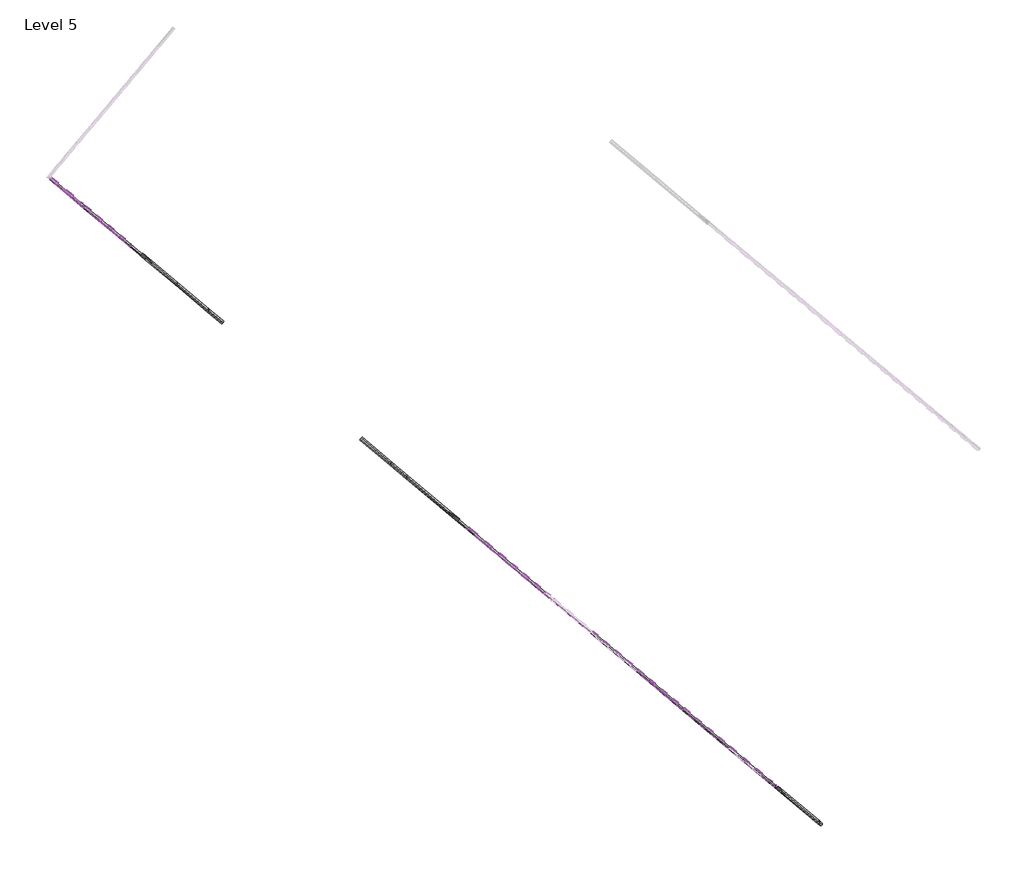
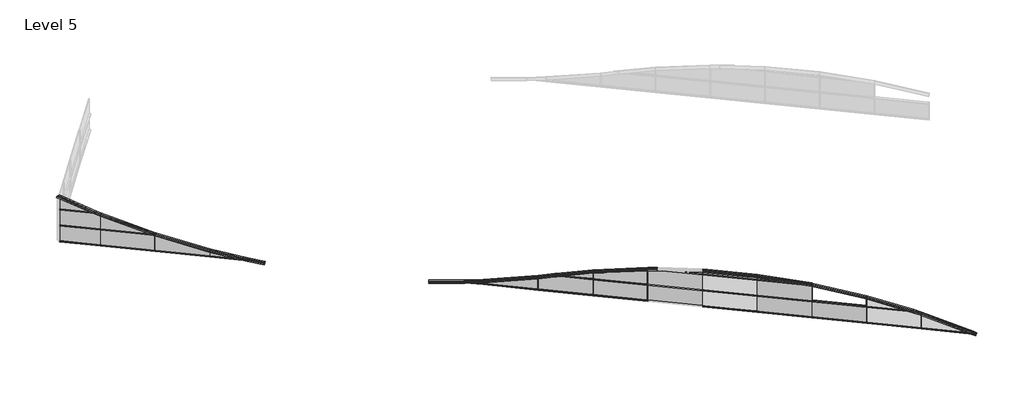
# One storey, part 1 of 3: 63 members, 22 plates.
"""IFC4 building model written with IfcOpenShell, lengths in millimetres."""

from ifc_helpers import new_model, si_unit, origin, place, context, project, spatial, transform, mapped, element, save
from components import member_e6b937b8, member_70bd908b, member_b3abe098, member_413a7bc5, member_acc734a8, member_3b901554, member_13104b59, member_2e13c91d, member_fd70117c, member_30c93c50, member_eaba9652, member_8e78e238, member_0554ee45, member_a8cc26e5, member_8357d0f7, member_06734e61, member_2dee25fe, member_2a6e87f4, member_080aa8fc, member_d5314287, member_feeeeace, member_a61118c8, member_515de703, member_f0ee25d4, member_fd3aaf6b, member_20d2be33, member_d02cf1ea, member_5b2668ac, member_4fadea7a, member_d7c8f077, member_25078dfa, member_bca03e0c, member_9db91060, member_15d39469, member_80d10c17, member_a3f5faf8, member_a7f1325a, member_37f80dbb, member_de666e84, member_804b152c, system_panel_glazed_a2c5a472, system_panel_glazed_ccf48815, system_panel_glazed_b129e1d1, system_panel_glazed_e8c26a90, system_panel_glazed_99161af7, system_panel_glazed_51180f41, system_panel_glazed_4c804277, system_panel_glazed_3941521a, system_panel_glazed_f960aef1, system_panel_glazed_87bd28ea, system_panel_glazed_7567f430, system_panel_glazed_97bb1392, system_panel_glazed_e87ea906, system_panel_glazed_e5f27b07, system_panel_glazed_77711ee0, system_panel_glazed_080434d1, system_panel_glazed_b2ff54e6

model = new_model("IFC4")

# Units and contexts
model_context = context("Model", 3, world=origin())
ifc_project = project(units=[si_unit("LENGTHUNIT", "METRE", prefix="MILLI")], contexts=[model_context])

# Site, building, storey
site = spatial("IfcSite", under=ifc_project)
building = spatial("IfcBuilding", under=site)
storey = spatial("IfcBuildingStorey", under=building, Name="Level 5", Elevation=12192.0)

# Members
placement = place(None, origin())
member_shape = member_e6b937b8(model_context)
element("IfcMember", 1, ObjectType="Rectangular Mullion : 1.5\" x 2.5\" rectangular", at=placement, inside=storey, context=model_context, shape_type="MappedRepresentation", body=[
    mapped(member_shape, transform((-24606.4909442, 3467.1035284, 13601.1444177), x_axis=(-0.76604444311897, 0.6427876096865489, 0.0), y_axis=(-0.6427876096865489, -0.76604444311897, 0.0), z_axis=(0.0, 0.0, 1.0))),
])
element("IfcMember", 2, ObjectType="Rectangular Mullion : 1.5\" x 2.5\" rectangular", at=placement, inside=storey, context=model_context, shape_type="MappedRepresentation", body=[
    mapped(member_shape, transform((-26941.3944069, 5426.3201627, 13601.1444177), x_axis=(-0.76604444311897, 0.6427876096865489, 0.0), y_axis=(-0.6427876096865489, -0.76604444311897, 0.0), z_axis=(0.0, 0.0, 1.0))),
])
element("IfcMember", 3, ObjectType="Rectangular Mullion : 1.5\" x 2.5\" rectangular", at=placement, inside=storey, context=model_context, shape_type="MappedRepresentation", body=[
    mapped(member_shape, transform((-29276.2978695, 7385.536797, 13601.1444177), x_axis=(-0.76604444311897, 0.6427876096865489, 0.0), y_axis=(-0.6427876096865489, -0.76604444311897, 0.0), z_axis=(0.0, 0.0, 1.0))),
])
element("IfcMember", 4, ObjectType="Rectangular Mullion : 1.5\" x 2.5\" rectangular", at=placement, inside=storey, context=model_context, shape_type="MappedRepresentation", body=[
    mapped(member_shape, transform((-33946.1047947, 11303.9700657, 13601.1444177), x_axis=(-0.76604444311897, 0.6427876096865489, 0.0), y_axis=(-0.6427876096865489, -0.76604444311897, 0.0), z_axis=(0.0, 0.0, 1.0))),
])
element("IfcMember", 5, ObjectType="Rectangular Mullion : 1.5\" x 2.5\" rectangular", at=placement, inside=storey, context=model_context, shape_type="MappedRepresentation", body=[
    mapped(member_shape, transform((-36281.0082574, 13263.1867, 13601.1444177), x_axis=(-0.76604444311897, 0.6427876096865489, 0.0), y_axis=(-0.6427876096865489, -0.76604444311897, 0.0), z_axis=(0.0, 0.0, 1.0))),
])
element("IfcMember", 6, ObjectType="Rectangular Mullion : 1.5\" x 2.5\" rectangular", at=placement, inside=storey, context=model_context, shape_type="MappedRepresentation", body=[
    mapped(member_shape, transform((-54960.2359584, 28936.9197746, 13601.1444177), x_axis=(-0.76604444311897, 0.6427876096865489, 0.0), y_axis=(-0.6427876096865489, -0.76604444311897, 0.0), z_axis=(0.0, 0.0, 1.0))),
])
element("IfcMember", 7, ObjectType="Rectangular Mullion : 1.5\" x 2.5\" rectangular", at=placement, inside=storey, context=model_context, shape_type="MappedRepresentation", body=[
    mapped(member_shape, transform((-57295.139421, 30896.1364089, 13601.1444177), x_axis=(-0.76604444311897, 0.6427876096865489, 0.0), y_axis=(-0.6427876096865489, -0.76604444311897, 0.0), z_axis=(0.0, 0.0, 1.0))),
])
element("IfcMember", 8, ObjectType="Rectangular Mullion : 1.5\" x 2.5\" rectangular", at=placement, inside=storey, context=model_context, shape_type="MappedRepresentation", body=[
    mapped(member_shape, transform((-26941.3944069, 5426.3201627, 14667.9444177), x_axis=(-0.76604444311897, 0.6427876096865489, 0.0), y_axis=(-0.6427876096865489, -0.76604444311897, 0.0), z_axis=(0.0, 0.0, 1.0))),
])
element("IfcMember", 9, ObjectType="Rectangular Mullion : 1.5\" x 2.5\" rectangular", at=placement, inside=storey, context=model_context, shape_type="MappedRepresentation", body=[
    mapped(member_shape, transform((-29276.2978695, 7385.536797, 14667.9444177), x_axis=(-0.76604444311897, 0.6427876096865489, 0.0), y_axis=(-0.6427876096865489, -0.76604444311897, 0.0), z_axis=(0.0, 0.0, 1.0))),
])
member_2_shape = member_70bd908b(model_context)
element("IfcMember", 10, ObjectType="Rectangular Mullion : 1.5\" x 2.5\" rectangular", at=placement, inside=storey, context=model_context, shape_type="MappedRepresentation", body=[
    mapped(member_2_shape, transform((-36281.0082574, 13263.1867, 14119.2958825), x_axis=(-0.76604444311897, 0.6427876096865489, 0.0), y_axis=(-0.6427876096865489, -0.76604444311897, 0.0), z_axis=(0.0, 0.0, 1.0))),
])
member_3_shape = member_b3abe098(model_context)
element("IfcMember", 11, ObjectType="Rectangular Mullion : 1.5\" x 2.5\" rectangular", at=placement, inside=storey, context=model_context, shape_type="MappedRepresentation", body=[
    mapped(member_3_shape, transform((-38615.91172, 15222.4033343, 13368.1818647), x_axis=(-0.76604444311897, 0.6427876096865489, 0.0), y_axis=(-0.6427876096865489, -0.76604444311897, 0.0), z_axis=(0.0, 0.0, 1.0))),
])
member_4_shape = member_413a7bc5(model_context)
element("IfcMember", 12, ObjectType="Rectangular Mullion : 1.5\" x 2.5\" rectangular", at=placement, inside=storey, context=model_context, shape_type="MappedRepresentation", body=[
    mapped(member_4_shape, transform((-40950.8151826, 17181.6199687, 12733.2673245), x_axis=(-0.76604444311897, 0.6427876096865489, 0.0), y_axis=(-0.6427876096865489, -0.76604444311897, 0.0), z_axis=(0.0, 0.0, 1.0))),
])
member_5_shape = member_acc734a8(model_context)
element("IfcMember", 13, ObjectType="Rectangular Mullion : 1.5\" x 2.5\" rectangular", at=placement, inside=storey, context=model_context, shape_type="MappedRepresentation", body=[
    mapped(member_5_shape, transform((-57295.139421, 30896.1364089, 14599.6362955), x_axis=(-0.76604444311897, 0.6427876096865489, 0.0), y_axis=(-0.6427876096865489, -0.76604444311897, 0.0), z_axis=(0.0, 0.0, 1.0))),
])
member_6_shape = member_3b901554(model_context)
element("IfcMember", 14, ObjectType="Rectangular Mullion : 1.5\" x 2.5\" rectangular", at=placement, inside=storey, context=model_context, shape_type="MappedRepresentation", body=[
    mapped(member_6_shape, transform((-29276.2978695, 7385.536797, 14922.6780402), x_axis=(-0.76604444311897, 0.6427876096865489, 0.0), y_axis=(-0.6427876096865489, -0.76604444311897, 0.0), z_axis=(0.0, 0.0, 1.0))),
])
member_7_shape = member_13104b59(model_context)
element("IfcMember", 15, ObjectType="Rectangular Mullion : 1.5\" x 2.5\" rectangular", at=placement, inside=storey, context=model_context, shape_type="MappedRepresentation", body=[
    mapped(member_7_shape, transform((-22271.5874816, 1507.8868941, 13504.6166424), x_axis=(-0.76604444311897, 0.6427876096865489, 0.0), y_axis=(-0.6427876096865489, -0.76604444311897, 0.0), z_axis=(0.0, 0.0, 1.0))),
])
member_8_shape = member_2e13c91d(model_context)
element("IfcMember", 16, ObjectType="Rectangular Mullion : 1.5\" x 2.5\" rectangular", at=placement, inside=storey, context=model_context, shape_type="MappedRepresentation", body=[
    mapped(member_8_shape, transform((-24606.4909442, 3467.1035284, 14231.5556655), x_axis=(-0.76604444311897, 0.6427876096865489, 0.0), y_axis=(-0.6427876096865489, -0.76604444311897, 0.0), z_axis=(0.0, 0.0, 1.0))),
])
member_9_shape = member_fd70117c(model_context)
element("IfcMember", 17, ObjectType="Rectangular Mullion : 1.5\" x 2.5\" rectangular", at=placement, inside=storey, context=model_context, shape_type="MappedRepresentation", body=[
    mapped(member_9_shape, transform((-33946.1047947, 11303.9700657, 14634.5988593), x_axis=(-0.76604444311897, 0.6427876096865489, 0.0), y_axis=(-0.6427876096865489, -0.76604444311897, 0.0), z_axis=(0.0, 0.0, 1.0))),
])
member_10_shape = member_30c93c50(model_context)
element("IfcMember", 18, ObjectType="Rectangular Mullion : 1.5\" x 2.5\" rectangular", at=placement, inside=storey, context=model_context, shape_type="MappedRepresentation", body=[
    mapped(member_10_shape, transform((-52625.3324958, 26977.7031403, 12923.5732571), x_axis=(-0.76604444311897, 0.6427876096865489, 0.0), y_axis=(-0.6427876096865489, -0.76604444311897, 0.0), z_axis=(0.0, 0.0, 1.0))),
])
member_11_shape = member_eaba9652(model_context)
element("IfcMember", 19, ObjectType="Rectangular Mullion : 2.5\" x 5\" rectangular", at=placement, inside=storey, context=model_context, shape_type="MappedRepresentation", body=[
    mapped(member_11_shape, transform((-22271.5874816, 1507.8868941, 12566.0944177), x_axis=(0.0, 0.0, 1.0), y_axis=(-0.6427876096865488, -0.7660444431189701, 0.0), z_axis=(0.7660444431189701, -0.6427876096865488, 0.0))),
])
element("IfcMember", 20, ObjectType="Rectangular Mullion : 2.5\" x 5\" rectangular", at=placement, inside=storey, context=model_context, shape_type="MappedRepresentation", body=[
    mapped(member_11_shape, transform((-24606.4909442, 3467.1035284, 12566.0944177), x_axis=(0.0, 0.0, 1.0), y_axis=(-0.6427876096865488, -0.7660444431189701, 0.0), z_axis=(0.7660444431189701, -0.6427876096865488, 0.0))),
])
element("IfcMember", 21, ObjectType="Rectangular Mullion : 2.5\" x 5\" rectangular", at=placement, inside=storey, context=model_context, shape_type="MappedRepresentation", body=[
    mapped(member_11_shape, transform((-26941.3944069, 5426.3201627, 12566.0944177), x_axis=(0.0, 0.0, 1.0), y_axis=(-0.6427876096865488, -0.7660444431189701, 0.0), z_axis=(0.7660444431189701, -0.6427876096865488, 0.0))),
])
element("IfcMember", 22, ObjectType="Rectangular Mullion : 2.5\" x 5\" rectangular", at=placement, inside=storey, context=model_context, shape_type="MappedRepresentation", body=[
    mapped(member_11_shape, transform((-29276.2978695, 7385.536797, 12566.0944177), x_axis=(0.0, 0.0, 1.0), y_axis=(-0.6427876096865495, -0.7660444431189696, 0.0), z_axis=(0.7660444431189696, -0.6427876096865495, 0.0))),
])
element("IfcMember", 23, ObjectType="Rectangular Mullion : 2.5\" x 5\" rectangular", at=placement, inside=storey, context=model_context, shape_type="MappedRepresentation", body=[
    mapped(member_11_shape, transform((-33946.1047947, 11303.9700657, 12566.0944177), x_axis=(0.0, 0.0, 1.0), y_axis=(-0.642787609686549, -0.76604444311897, 0.0), z_axis=(0.7660444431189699, -0.6427876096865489, 0.0))),
])
element("IfcMember", 24, ObjectType="Rectangular Mullion : 2.5\" x 5\" rectangular", at=placement, inside=storey, context=model_context, shape_type="MappedRepresentation", body=[
    mapped(member_11_shape, transform((-36281.0082574, 13263.1867, 12566.0944177), x_axis=(0.0, 0.0, 1.0), y_axis=(-0.6427876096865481, -0.7660444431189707, 0.0), z_axis=(0.7660444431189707, -0.6427876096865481, 0.0))),
])
element("IfcMember", 25, ObjectType="Rectangular Mullion : 2.5\" x 5\" rectangular", at=placement, inside=storey, context=model_context, shape_type="MappedRepresentation", body=[
    mapped(member_11_shape, transform((-38615.91172, 15222.4033343, 12566.0944177), x_axis=(0.0, 0.0, 1.0), y_axis=(-0.6427876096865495, -0.7660444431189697, 0.0), z_axis=(0.7660444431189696, -0.6427876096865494, 0.0))),
])
element("IfcMember", 26, ObjectType="Rectangular Mullion : 2.5\" x 5\" rectangular", at=placement, inside=storey, context=model_context, shape_type="MappedRepresentation", body=[
    mapped(member_11_shape, transform((-52625.3324958, 26977.7031403, 12566.0944177), x_axis=(0.0, 0.0, 1.0), y_axis=(-0.6427876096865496, -0.7660444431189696, 0.0), z_axis=(0.7660444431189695, -0.6427876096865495, 0.0))),
])
element("IfcMember", 27, ObjectType="Rectangular Mullion : 2.5\" x 5\" rectangular", at=placement, inside=storey, context=model_context, shape_type="MappedRepresentation", body=[
    mapped(member_11_shape, transform((-54960.2359584, 28936.9197746, 12566.0944177), x_axis=(0.0, 0.0, 1.0), y_axis=(-0.6427876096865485, -0.7660444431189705, 0.0), z_axis=(0.7660444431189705, -0.6427876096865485, 0.0))),
])
element("IfcMember", 28, ObjectType="Rectangular Mullion : 2.5\" x 5\" rectangular", at=placement, inside=storey, context=model_context, shape_type="MappedRepresentation", body=[
    mapped(member_11_shape, transform((-24606.4909442, 3467.1035284, 13632.8944177), x_axis=(0.0, 0.0, 1.0), y_axis=(-0.6427876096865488, -0.7660444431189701, 0.0), z_axis=(0.7660444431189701, -0.6427876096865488, 0.0))),
])
element("IfcMember", 29, ObjectType="Rectangular Mullion : 2.5\" x 5\" rectangular", at=placement, inside=storey, context=model_context, shape_type="MappedRepresentation", body=[
    mapped(member_11_shape, transform((-26941.3944069, 5426.3201627, 13632.8944177), x_axis=(0.0, 0.0, 1.0), y_axis=(-0.6427876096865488, -0.7660444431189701, 0.0), z_axis=(0.7660444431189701, -0.6427876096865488, 0.0))),
])
element("IfcMember", 30, ObjectType="Rectangular Mullion : 2.5\" x 5\" rectangular", at=placement, inside=storey, context=model_context, shape_type="MappedRepresentation", body=[
    mapped(member_11_shape, transform((-29276.2978695, 7385.536797, 13632.8944177), x_axis=(0.0, 0.0, 1.0), y_axis=(-0.6427876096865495, -0.7660444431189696, 0.0), z_axis=(0.7660444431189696, -0.6427876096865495, 0.0))),
])
element("IfcMember", 31, ObjectType="Rectangular Mullion : 2.5\" x 5\" rectangular", at=placement, inside=storey, context=model_context, shape_type="MappedRepresentation", body=[
    mapped(member_11_shape, transform((-33946.1047947, 11303.9700657, 13632.8944177), x_axis=(0.0, 0.0, 1.0), y_axis=(-0.642787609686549, -0.76604444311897, 0.0), z_axis=(0.7660444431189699, -0.6427876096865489, 0.0))),
])
element("IfcMember", 32, ObjectType="Rectangular Mullion : 2.5\" x 5\" rectangular", at=placement, inside=storey, context=model_context, shape_type="MappedRepresentation", body=[
    mapped(member_11_shape, transform((-29276.2978695, 7385.536797, 14699.6944177), x_axis=(0.0, 0.0, 1.0), y_axis=(-0.6427876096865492, -0.7660444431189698, 0.0), z_axis=(0.7660444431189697, -0.6427876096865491, 0.0))),
])
member_12_shape = member_8e78e238(model_context)
element("IfcMember", 33, ObjectType="Rectangular Mullion : 2.5\" x 5\" rectangular", at=placement, inside=storey, context=model_context, shape_type="MappedRepresentation", body=[
    mapped(member_12_shape, transform((-57295.139421, 30896.1364089, 12566.0944177), x_axis=(0.0, 0.0, 1.0), y_axis=(-0.6427876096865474, -0.7660444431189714, 0.0), z_axis=(0.7660444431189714, -0.6427876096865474, 0.0))),
])
element("IfcMember", 34, ObjectType="Rectangular Mullion : 2.5\" x 5\" rectangular", at=placement, inside=storey, context=model_context, shape_type="MappedRepresentation", body=[
    mapped(member_12_shape, transform((-57295.139421, 30896.1364089, 13632.8944177), x_axis=(0.0, 0.0, 1.0), y_axis=(-0.6427876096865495, -0.7660444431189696, 0.0), z_axis=(0.7660444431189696, -0.6427876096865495, 0.0))),
])
member_13_shape = member_0554ee45(model_context)
element("IfcMember", 35, ObjectType="Rectangular Mullion : 2.5\" x 5\" rectangular", at=placement, inside=storey, context=model_context, shape_type="MappedRepresentation", body=[
    mapped(member_13_shape, transform((-20063.1247747, -345.2333487, 12566.0944177), x_axis=(0.0, 0.0, 1.0), y_axis=(-0.6427876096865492, -0.7660444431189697, 0.0), z_axis=(0.7660444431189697, -0.6427876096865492, 0.0))),
])
member_14_shape = member_a8cc26e5(model_context)
element("IfcMember", 36, ObjectType="Rectangular Mullion : 2.5\" x 5\" rectangular", at=placement, inside=storey, context=model_context, shape_type="MappedRepresentation", body=[
    mapped(member_14_shape, transform((-40950.8151826, 17181.6199687, 12566.0944177), x_axis=(0.0, 0.0, 1.0), y_axis=(-0.6427876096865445, -0.7660444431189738, 0.0), z_axis=(0.7660444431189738, -0.6427876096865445, 0.0))),
])
member_15_shape = member_8357d0f7(model_context)
element("IfcMember", 37, ObjectType="Rectangular Mullion : 2.5\" x 5\" rectangular", at=placement, inside=storey, context=model_context, shape_type="MappedRepresentation", body=[
    mapped(member_15_shape, transform((-51013.959555, 25625.6007, 12566.0944177), x_axis=(0.0, 0.0, 1.0), y_axis=(-0.6427876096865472, -0.7660444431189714, 0.0), z_axis=(0.7660444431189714, -0.6427876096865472, 0.0))),
])
member_16_shape = member_06734e61(model_context)
element("IfcMember", 38, ObjectType="Rectangular Mullion : 2.5\" x 5\" rectangular", at=placement, inside=storey, context=model_context, shape_type="MappedRepresentation", body=[
    mapped(member_16_shape, transform((-22628.3504996, 1807.2466109, 13632.8944177), x_axis=(0.0, 0.0, 1.0), y_axis=(-0.6427876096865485, -0.7660444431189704, 0.0), z_axis=(0.7660444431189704, -0.6427876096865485, 0.0))),
])
member_17_shape = member_2dee25fe(model_context)
element("IfcMember", 39, ObjectType="Rectangular Mullion : 2.5\" x 5\" rectangular", at=placement, inside=storey, context=model_context, shape_type="MappedRepresentation", body=[
    mapped(member_17_shape, transform((-36281.0082574, 13263.1867, 13632.8944177), x_axis=(0.0, 0.0, 1.0), y_axis=(-0.6427876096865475, -0.7660444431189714, 0.0), z_axis=(0.7660444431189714, -0.6427876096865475, 0.0))),
])
member_18_shape = member_2a6e87f4(model_context)
element("IfcMember", 40, ObjectType="Rectangular Mullion : 2.5\" x 5\" rectangular", at=placement, inside=storey, context=model_context, shape_type="MappedRepresentation", body=[
    mapped(member_18_shape, transform((-57507.3829394, 31074.229867, 14699.6944177), x_axis=(0.0, 0.0, 1.0), y_axis=(-0.642787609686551, -0.7660444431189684, 0.0), z_axis=(0.7660444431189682, -0.6427876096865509, 0.0))),
])
member_19_shape = member_080aa8fc(model_context)
element("IfcMember", 41, ObjectType="Rectangular Mullion : 2.5\" x 5\" rectangular", at=placement, inside=storey, context=model_context, shape_type="MappedRepresentation", body=[
    mapped(member_19_shape, transform((-54945.6428117, 28924.6746707, 13632.8944177), x_axis=(0.0, 0.0, 1.0), y_axis=(-0.6427876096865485, -0.7660444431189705, 0.0), z_axis=(0.7660444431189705, -0.6427876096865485, 0.0))),
])
element("IfcMember", 42, ObjectType="Rectangular Mullion : 2.5\" x 5\" rectangular", at=placement, inside=storey, context=model_context, shape_type="MappedRepresentation", body=[
    mapped(member_19_shape, transform((-26926.8012602, 5414.0750588, 14699.6944177), x_axis=(0.0, 0.0, 1.0), y_axis=(-0.6427876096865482, -0.7660444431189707, 0.0), z_axis=(0.7660444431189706, -0.6427876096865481, 0.0))),
])
member_20_shape = member_d5314287(model_context)
element("IfcMember", 43, ObjectType="V Corner Mullion : 5\" V Corner", at=placement, inside=storey, context=model_context, shape_type="MappedRepresentation", body=[
    mapped(member_20_shape, transform((-29276.2978695, 7385.536797, 14922.6780402), x_axis=(-0.005533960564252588, 0.004643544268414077, 0.9999739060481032), y_axis=(-0.6427876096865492, -0.7660444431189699, 0.0), z_axis=(0.7660244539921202, -0.6427708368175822, 0.007224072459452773))),
])
member_21_shape = member_feeeeace(model_context)
element("IfcMember", 44, ObjectType="V Corner Mullion : 5\" V Corner", at=placement, inside=storey, context=model_context, shape_type="MappedRepresentation", body=[
    mapped(member_21_shape, transform((-38615.91172, 15222.4033343, 13368.1818647), x_axis=(-0.1562178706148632, 0.1310823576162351, 0.9789859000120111), y_axis=(-0.6427876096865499, -0.7660444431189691, 0.0), z_axis=(0.7499467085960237, -0.6292800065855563, 0.20392794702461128))),
])
member_22_shape = member_a61118c8(model_context)
element("IfcMember", 45, ObjectType="V Corner Mullion : 5\" V Corner", at=placement, inside=storey, context=model_context, shape_type="MappedRepresentation", body=[
    mapped(member_22_shape, transform((-19936.684019, -451.3297403, 12504.5952808), x_axis=(0.26746140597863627, -0.22442676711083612, 0.937068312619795), y_axis=(-0.6427876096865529, -0.7660444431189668, 0.0), z_axis=(0.7178359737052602, -0.6023359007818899, -0.3491460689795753))),
])
member_23_shape = member_515de703(model_context)
element("IfcMember", 46, ObjectType="V Corner Mullion : 5\" V Corner", at=placement, inside=storey, context=model_context, shape_type="MappedRepresentation", body=[
    mapped(member_23_shape, transform((-22271.5874816, 1507.8868941, 13504.6166424), x_axis=(0.20342311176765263, -0.17069225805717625, 0.9640970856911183), y_axis=(-0.6427876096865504, -0.7660444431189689, 0.0), z_axis=(0.7385412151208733, -0.6197096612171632, -0.2655500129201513))),
])
member_24_shape = member_f0ee25d4(model_context)
element("IfcMember", 47, ObjectType="V Corner Mullion : 5\" V Corner", at=placement, inside=storey, context=model_context, shape_type="MappedRepresentation", body=[
    mapped(member_24_shape, transform((-33946.1047947, 11303.9700657, 14634.5988593), x_axis=(-0.12769742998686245, 0.10715086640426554, 0.9860081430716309), y_axis=(-0.6427876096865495, -0.7660444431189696, 0.0), z_axis=(0.7553260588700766, -0.6337938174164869, 0.16669715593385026))),
])
member_25_shape = member_fd3aaf6b(model_context)
element("IfcMember", 48, ObjectType="V Corner Mullion : 5\" V Corner", at=placement, inside=storey, context=model_context, shape_type="MappedRepresentation", body=[
    mapped(member_25_shape, transform((-36281.0082574, 13263.1867, 14119.2958825), x_axis=(-0.178499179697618, 0.14977859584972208, 0.972473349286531), y_axis=(-0.6427876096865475, -0.7660444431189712, 0.0), z_axis=(0.7449578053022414, -0.6250938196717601, 0.23301413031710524))),
])
member_26_shape = member_20d2be33(model_context)
element("IfcMember", 49, ObjectType="V Corner Mullion : 5\" V Corner", at=placement, inside=storey, context=model_context, shape_type="MappedRepresentation", body=[
    mapped(member_26_shape, transform((-37903.7802026, 14624.8540408, 13609.0302353), x_axis=(-0.19212509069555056, 0.16121209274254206, 0.9680385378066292), y_axis=(-0.642787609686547, -0.7660444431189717, 0.0), z_axis=(0.741560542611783, -0.6222431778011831, 0.2508014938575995))),
])
member_27_shape = member_d02cf1ea(model_context)
element("IfcMember", 50, ObjectType="V Corner Mullion : 5\" V Corner", at=placement, inside=storey, context=model_context, shape_type="MappedRepresentation", body=[
    mapped(member_27_shape, transform((-40950.8151826, 17181.6199687, 12733.2673245), x_axis=(-0.1189053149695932, 0.09977340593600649, 0.9878799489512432), y_axis=(-0.6427876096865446, -0.7660444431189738, 0.0), z_axis=(0.7567599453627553, -0.634996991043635, 0.15521986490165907))),
])
member_28_shape = member_5b2668ac(model_context)
element("IfcMember", 51, ObjectType="V Corner Mullion : 5\" V Corner", at=placement, inside=storey, context=model_context, shape_type="MappedRepresentation", body=[
    mapped(member_28_shape, transform((-50290.4290331, 25018.486506, 12440.8181166), x_axis=(0.10072401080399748, -0.0845174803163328, 0.991318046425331), y_axis=(-0.6427876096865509, -0.7660444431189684, 0.0), z_axis=(0.7593936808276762, -0.6372069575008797, -0.13148585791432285))),
])
member_29_shape = member_4fadea7a(model_context)
element("IfcMember", 52, ObjectType="V Corner Mullion : 5\" V Corner", at=placement, inside=storey, context=model_context, shape_type="MappedRepresentation", body=[
    mapped(member_29_shape, transform((-57295.139421, 30896.1364089, 14599.6362955), x_axis=(0.26019919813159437, -0.21833305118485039, 0.9405461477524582), y_axis=(-0.6427876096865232, -0.7660444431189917, 0.0), z_axis=(0.7205001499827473, -0.6045714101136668, -0.33966592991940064))),
])
member_30_shape = member_d7c8f077(model_context)
element("IfcMember", 53, ObjectType="V Corner Mullion : 5\" V Corner", at=placement, inside=storey, context=model_context, shape_type="MappedRepresentation", body=[
    mapped(member_30_shape, transform((-20063.1247747, -345.2333487, 12566.0944177), x_axis=(0.23713143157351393, -0.19897689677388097, 0.9508821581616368), y_axis=(-0.642787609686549, -0.7660444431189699, 0.0), z_axis=(0.7284179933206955, -0.6112152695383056, -0.30955309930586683))),
])
member_31_shape = member_25078dfa(model_context)
element("IfcMember", 54, ObjectType="V Corner Mullion : 5\" V Corner", at=placement, inside=storey, context=model_context, shape_type="MappedRepresentation", body=[
    mapped(member_31_shape, transform((-41765.8510669, 17865.5162786, 12566.0944177), x_axis=(-0.09133438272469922, 0.07663864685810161, 0.9928668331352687), y_axis=(-0.6427876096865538, -0.7660444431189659, 0.0), z_axis=(0.760580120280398, -0.6382024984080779, 0.11922856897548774))),
])
member_32_shape = member_bca03e0c(model_context)
element("IfcMember", 55, ObjectType="V Corner Mullion : 5\" V Corner", at=placement, inside=storey, context=model_context, shape_type="MappedRepresentation", body=[
    mapped(member_32_shape, transform((-51013.959555, 25625.6007, 12566.0944177), x_axis=(0.1283451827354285, -0.10769439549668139, 0.9858648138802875), y_axis=(-0.6427876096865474, -0.7660444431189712, 0.0), z_axis=(0.7552162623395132, -0.6337016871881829, -0.16754273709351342))),
])
member_33_shape = member_9db91060(model_context)
element("IfcMember", 56, ObjectType="V Corner Mullion : 5\" V Corner", at=placement, inside=storey, context=model_context, shape_type="MappedRepresentation", body=[
    mapped(member_33_shape, transform((-22628.3504996, 1807.2466109, 13632.8944177), x_axis=(0.17300702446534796, -0.14517013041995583, 0.9741633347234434), y_axis=(-0.6427876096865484, -0.7660444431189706, 0.0), z_axis=(0.7462524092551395, -0.6261801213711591, -0.22584463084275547))),
])
member_34_shape = member_15d39469(model_context)
element("IfcMember", 57, ObjectType="V Corner Mullion : 5\" V Corner", at=placement, inside=storey, context=model_context, shape_type="MappedRepresentation", body=[
    mapped(member_34_shape, transform((-37836.0580185, 14568.0283811, 13632.8944177), x_axis=(-0.1996412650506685, 0.1675189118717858, 0.965443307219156), y_axis=(-0.6427876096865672, -0.7660444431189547, 0.0), z_axis=(0.7395724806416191, -0.6205749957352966, 0.26061316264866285))),
])
member_35_shape = member_80d10c17(model_context)
element("IfcMember", 58, ObjectType="V Corner Mullion : 5\" V Corner", at=placement, inside=storey, context=model_context, shape_type="MappedRepresentation", body=[
    mapped(member_35_shape, transform((-33532.4033204, 10956.8333112, 14699.6944177), x_axis=(-0.0916726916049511, 0.07692252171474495, 0.9928137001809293), y_axis=(-0.6427876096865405, -0.7660444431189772, 0.0), z_axis=(0.7605394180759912, -0.638168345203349, 0.1196701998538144))),
])
member_36_shape = member_a3f5faf8(model_context)
element("IfcMember", 59, ObjectType="V Corner Mullion : 5\" V Corner", at=placement, inside=storey, context=model_context, shape_type="MappedRepresentation", body=[
    mapped(member_36_shape, transform((-57507.3829394, 31074.229867, 14699.6944177), x_axis=(0.2816474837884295, -0.23633029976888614, 0.9299584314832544), y_axis=(-0.6427876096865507, -0.7660444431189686, 0.0), z_axis=(0.7123894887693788, -0.5977657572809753, -0.36766467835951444))),
])
member_37_shape = member_a7f1325a(model_context)
element("IfcMember", 60, ObjectType="V Corner Mullion : 5\" V Corner", at=placement, inside=storey, context=model_context, shape_type="MappedRepresentation", body=[
    mapped(member_37_shape, transform((-24606.4909442, 3467.1035284, 14231.5556655), x_axis=(0.11675087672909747, -0.09796561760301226, 0.9883177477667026), y_axis=(-0.6427876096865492, -0.7660444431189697, 0.0), z_axis=(0.757095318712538, -0.6352784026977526, -0.1524074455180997))),
])
member_38_shape = member_37f80dbb(model_context)
element("IfcMember", 61, ObjectType="V Corner Mullion : 5\" V Corner", at=placement, inside=storey, context=model_context, shape_type="MappedRepresentation", body=[
    mapped(member_38_shape, transform((-26941.3944069, 5426.3201627, 14701.0815128), x_axis=(0.055546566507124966, -0.046609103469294, 0.9973676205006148), y_axis=(-0.6427876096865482, -0.7660444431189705, 0.0), z_axis=(0.7640279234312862, -0.6410955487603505, -0.0725108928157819))),
])
member_39_shape = member_de666e84(model_context)
element("IfcMember", 62, ObjectType="V Corner Mullion : 5\" V Corner", at=placement, inside=storey, context=model_context, shape_type="MappedRepresentation", body=[
    mapped(member_39_shape, transform((-52625.3324958, 26977.7031403, 12923.5732571), x_axis=(0.17484551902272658, -0.14671281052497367, 0.9736038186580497), y_axis=(-0.6427876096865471, -0.7660444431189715, 0.0), z_axis=(0.7458237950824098, -0.6258204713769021, -0.22824461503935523))),
])
member_40_shape = member_804b152c(model_context)
element("IfcMember", 63, ObjectType="V Corner Mullion : 5\" V Corner", at=placement, inside=storey, context=model_context, shape_type="MappedRepresentation", body=[
    mapped(member_40_shape, transform((-54960.2359584, 28936.9197746, 13639.0030262), x_axis=(0.2302673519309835, -0.1932172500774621, 0.9537526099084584), y_axis=(-0.642787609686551, -0.7660444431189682, 0.0), z_axis=(0.7306168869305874, -0.6130603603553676, -0.3005926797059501))),
])

# Plates
system_panel_glazed_shape = system_panel_glazed_a2c5a472(model_context)
element("IfcPlate", 64, ObjectType="System Panel : Glazed", at=placement, inside=storey, context=model_context, shape_type="MappedRepresentation", body=[
    mapped(system_panel_glazed_shape, transform((-25773.9426755, 4446.7118456, 12597.8444177), x_axis=(-0.76604444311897, 0.6427876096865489, 0.0), y_axis=(-0.6427876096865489, -0.76604444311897, 0.0), z_axis=(0.0, 0.0, 1.0))),
])
element("IfcPlate", 65, ObjectType="System Panel : Glazed", at=placement, inside=storey, context=model_context, shape_type="MappedRepresentation", body=[
    mapped(system_panel_glazed_shape, transform((-28108.8461382, 6405.9284799, 12597.8444177), x_axis=(-0.76604444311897, 0.6427876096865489, 0.0), y_axis=(-0.6427876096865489, -0.76604444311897, 0.0), z_axis=(0.0, 0.0, 1.0))),
])
element("IfcPlate", 66, ObjectType="System Panel : Glazed", at=placement, inside=storey, context=model_context, shape_type="MappedRepresentation", body=[
    mapped(system_panel_glazed_shape, transform((-32778.6530634, 10324.3617485, 12597.8444177), x_axis=(-0.76604444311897, 0.6427876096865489, 0.0), y_axis=(-0.6427876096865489, -0.76604444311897, 0.0), z_axis=(0.0, 0.0, 1.0))),
])
element("IfcPlate", 67, ObjectType="System Panel : Glazed", at=placement, inside=storey, context=model_context, shape_type="MappedRepresentation", body=[
    mapped(system_panel_glazed_shape, transform((-35113.5565261, 12283.5783829, 12597.8444177), x_axis=(-0.76604444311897, 0.6427876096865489, 0.0), y_axis=(-0.6427876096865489, -0.76604444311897, 0.0), z_axis=(0.0, 0.0, 1.0))),
])
element("IfcPlate", 68, ObjectType="System Panel : Glazed", at=placement, inside=storey, context=model_context, shape_type="MappedRepresentation", body=[
    mapped(system_panel_glazed_shape, transform((-56127.6876897, 29916.5280918, 12597.8444177), x_axis=(-0.76604444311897, 0.6427876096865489, 0.0), y_axis=(-0.6427876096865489, -0.76604444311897, 0.0), z_axis=(0.0, 0.0, 1.0))),
])
element("IfcPlate", 69, ObjectType="System Panel : Glazed", at=placement, inside=storey, context=model_context, shape_type="MappedRepresentation", body=[
    mapped(system_panel_glazed_shape, transform((-28108.8461382, 6405.9284799, 13664.6444177), x_axis=(-0.76604444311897, 0.6427876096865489, 0.0), y_axis=(-0.6427876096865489, -0.76604444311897, 0.0), z_axis=(0.0, 0.0, 1.0))),
])
system_panel_glazed_2_shape = system_panel_glazed_ccf48815(model_context)
element("IfcPlate", 70, ObjectType="System Panel : Glazed", at=placement, inside=storey, context=model_context, shape_type="MappedRepresentation", body=[
    mapped(system_panel_glazed_2_shape, transform((-58169.5258086, 31629.8337042, 12597.8444177), x_axis=(-0.76604444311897, 0.6427876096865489, 0.0), y_axis=(-0.6427876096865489, -0.76604444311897, 0.0), z_axis=(0.0, 0.0, 1.0))),
])
system_panel_glazed_3_shape = system_panel_glazed_b129e1d1(model_context)
element("IfcPlate", 71, ObjectType="System Panel : Glazed", at=placement, inside=storey, context=model_context, shape_type="MappedRepresentation", body=[
    mapped(system_panel_glazed_3_shape, transform((-39783.3634513, 16202.0116515, 12597.8444177), x_axis=(-0.76604444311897, 0.6427876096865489, 0.0), y_axis=(-0.6427876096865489, -0.76604444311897, 0.0), z_axis=(0.0, 0.0, 1.0))),
])
system_panel_glazed_4_shape = system_panel_glazed_e8c26a90(model_context)
element("IfcPlate", 72, ObjectType="System Panel : Glazed", at=placement, inside=storey, context=model_context, shape_type="MappedRepresentation", body=[
    mapped(system_panel_glazed_4_shape, transform((-41109.2743714, 17314.5830156, 12597.8444177), x_axis=(-0.76604444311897, 0.6427876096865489, 0.0), y_axis=(-0.6427876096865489, -0.76604444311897, 0.0), z_axis=(0.0, 0.0, 1.0))),
])
system_panel_glazed_5_shape = system_panel_glazed_99161af7(model_context)
element("IfcPlate", 73, ObjectType="System Panel : Glazed", at=placement, inside=storey, context=model_context, shape_type="MappedRepresentation", body=[
    mapped(system_panel_glazed_5_shape, transform((-53792.7842271, 27957.3114575, 12597.8444177), x_axis=(-0.76604444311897, 0.6427876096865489, 0.0), y_axis=(-0.6427876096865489, -0.76604444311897, 0.0), z_axis=(0.0, 0.0, 1.0))),
])
system_panel_glazed_6_shape = system_panel_glazed_51180f41(model_context)
element("IfcPlate", 74, ObjectType="System Panel : Glazed", at=placement, inside=storey, context=model_context, shape_type="MappedRepresentation", body=[
    mapped(system_panel_glazed_6_shape, transform((-35113.5565261, 12283.5783829, 13664.6444177), x_axis=(-0.76604444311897, 0.6427876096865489, 0.0), y_axis=(-0.6427876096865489, -0.76604444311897, 0.0), z_axis=(0.0, 0.0, 1.0))),
])
system_panel_glazed_7_shape = system_panel_glazed_4c804277(model_context)
element("IfcPlate", 75, ObjectType="System Panel : Glazed", at=placement, inside=storey, context=model_context, shape_type="MappedRepresentation", body=[
    mapped(system_panel_glazed_7_shape, transform((-36895.8654257, 13779.1131232, 13664.6444177), x_axis=(-0.76604444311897, 0.6427876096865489, 0.0), y_axis=(-0.6427876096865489, -0.76604444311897, 0.0), z_axis=(0.0, 0.0, 1.0))),
])
system_panel_glazed_8_shape = system_panel_glazed_3941521a(model_context)
element("IfcPlate", 76, ObjectType="System Panel : Glazed", at=placement, inside=storey, context=model_context, shape_type="MappedRepresentation", body=[
    mapped(system_panel_glazed_8_shape, transform((-56243.9632935, 30014.094908, 13664.6444177), x_axis=(-0.76604444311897, 0.6427876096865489, 0.0), y_axis=(-0.6427876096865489, -0.76604444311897, 0.0), z_axis=(0.0, 0.0, 1.0))),
])
system_panel_glazed_9_shape = system_panel_glazed_f960aef1(model_context)
element("IfcPlate", 77, ObjectType="System Panel : Glazed", at=placement, inside=storey, context=model_context, shape_type="MappedRepresentation", body=[
    mapped(system_panel_glazed_9_shape, transform((-58169.5258086, 31629.8337042, 13664.6444177), x_axis=(-0.76604444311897, 0.6427876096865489, 0.0), y_axis=(-0.6427876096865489, -0.76604444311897, 0.0), z_axis=(0.0, 0.0, 1.0))),
])
system_panel_glazed_10_shape = system_panel_glazed_87bd28ea(model_context)
element("IfcPlate", 78, ObjectType="System Panel : Glazed", at=placement, inside=storey, context=model_context, shape_type="MappedRepresentation", body=[
    mapped(system_panel_glazed_10_shape, transform((-28644.5980244, 6855.47769, 14731.4444177), x_axis=(-0.76604444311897, 0.6427876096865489, 0.0), y_axis=(-0.6427876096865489, -0.76604444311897, 0.0), z_axis=(0.0, 0.0, 1.0))),
])
system_panel_glazed_11_shape = system_panel_glazed_7567f430(model_context)
element("IfcPlate", 79, ObjectType="System Panel : Glazed", at=placement, inside=storey, context=model_context, shape_type="MappedRepresentation", body=[
    mapped(system_panel_glazed_11_shape, transform((-32079.5671571, 9737.7590224, 14731.4444177), x_axis=(-0.76604444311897, 0.6427876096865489, 0.0), y_axis=(-0.6427876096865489, -0.76604444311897, 0.0), z_axis=(0.0, 0.0, 1.0))),
])
system_panel_glazed_12_shape = system_panel_glazed_97bb1392(model_context)
element("IfcPlate", 80, ObjectType="System Panel : Glazed", at=placement, inside=storey, context=model_context, shape_type="MappedRepresentation", body=[
    mapped(system_panel_glazed_12_shape, transform((-37448.4599887, 14242.7950172, 12597.8444177), x_axis=(-0.76604444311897, 0.6427876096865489, 0.0), y_axis=(-0.6427876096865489, -0.76604444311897, 0.0), z_axis=(0.0, 0.0, 1.0))),
])
system_panel_glazed_13_shape = system_panel_glazed_e87ea906(model_context)
element("IfcPlate", 81, ObjectType="System Panel : Glazed", at=placement, inside=storey, context=model_context, shape_type="MappedRepresentation", body=[
    mapped(system_panel_glazed_13_shape, transform((-52049.7034185, 26494.6929939, 12597.8444177), x_axis=(-0.76604444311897, 0.6427876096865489, 0.0), y_axis=(-0.6427876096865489, -0.76604444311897, 0.0), z_axis=(0.0, 0.0, 1.0))),
])
system_panel_glazed_14_shape = system_panel_glazed_e5f27b07(model_context)
element("IfcPlate", 82, ObjectType="System Panel : Glazed", at=placement, inside=storey, context=model_context, shape_type="MappedRepresentation", body=[
    mapped(system_panel_glazed_14_shape, transform((-32778.6530634, 10324.3617485, 13664.6444177), x_axis=(-0.76604444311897, 0.6427876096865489, 0.0), y_axis=(-0.6427876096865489, -0.76604444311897, 0.0), z_axis=(0.0, 0.0, 1.0))),
])
system_panel_glazed_15_shape = system_panel_glazed_77711ee0(model_context)
element("IfcPlate", 83, ObjectType="System Panel : Glazed", at=placement, inside=storey, context=model_context, shape_type="MappedRepresentation", body=[
    mapped(system_panel_glazed_15_shape, transform((-58374.6626977, 31801.9639922, 14731.4444177), x_axis=(-0.76604444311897, 0.6427876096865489, 0.0), y_axis=(-0.6427876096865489, -0.76604444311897, 0.0), z_axis=(0.0, 0.0, 1.0))),
])
system_panel_glazed_16_shape = system_panel_glazed_080434d1(model_context)
element("IfcPlate", 84, ObjectType="System Panel : Glazed", at=placement, inside=storey, context=model_context, shape_type="MappedRepresentation", body=[
    mapped(system_panel_glazed_16_shape, transform((-54951.6913054, 28929.7499594, 13632.8944177), x_axis=(-0.76604444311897, 0.6427876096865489, 0.0), y_axis=(-0.6427876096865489, -0.76604444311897, 0.0), z_axis=(0.0, 0.0, 1.0))),
])
system_panel_glazed_17_shape = system_panel_glazed_b2ff54e6(model_context)
element("IfcPlate", 85, ObjectType="System Panel : Glazed", at=placement, inside=storey, context=model_context, shape_type="MappedRepresentation", body=[
    mapped(system_panel_glazed_17_shape, transform((-26936.6997069, 5422.3808417, 14699.6944177), x_axis=(-0.76604444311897, 0.6427876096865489, 0.0), y_axis=(-0.6427876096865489, -0.76604444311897, 0.0), z_axis=(0.0, 0.0, 1.0))),
])

save(model, "model.ifc")
